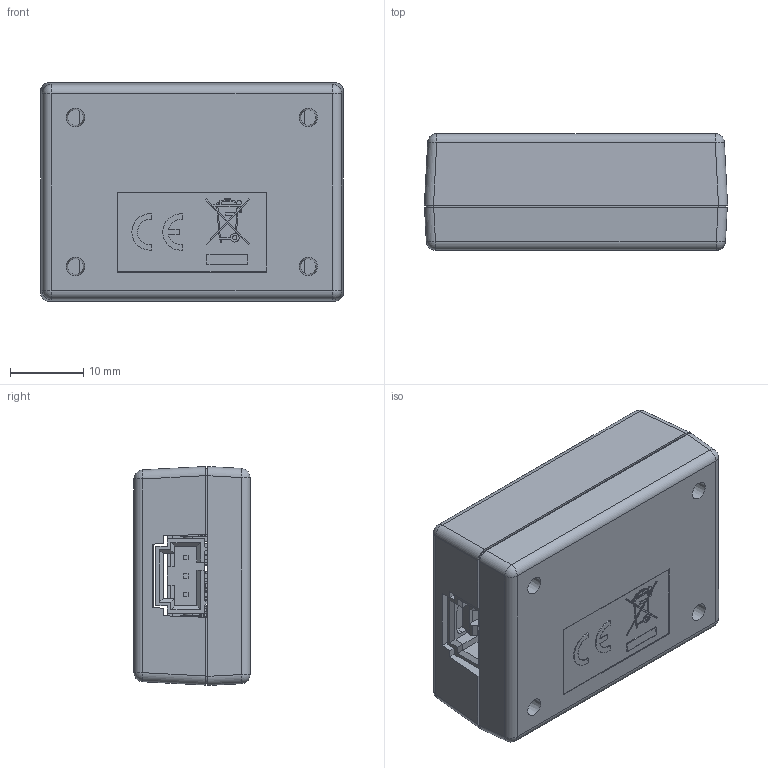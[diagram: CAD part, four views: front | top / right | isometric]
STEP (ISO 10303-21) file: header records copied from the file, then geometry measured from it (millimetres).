
FILE_DESCRIPTION(/* description */ ('Alibre Inc.'),/* implementation_level */ '2;1');
FILE_NAME(/* name */ 'export-C8C71824-2AB4-4BFB-A1C0-4428B83CCBF1',/* time_stamp */ '2024-01-15T13:41:11-07:00',/* author */ (''),/* organization */ (''),/* preprocessor_version */ 'ST-DEVELOPER v17',/* originating_system */ 'Alibre',/* authorisation */ '');
FILE_SCHEMA (('CONFIG_CONTROL_DESIGN'));
Length unit declared in the file: centimetre
Products named in the file (76): Board; Extruded; 5131697216; 5131697024; C12; 5131696832; 5131696640; C11; C10; C9; User_Library-SOT-23-1_1_1; User_Library-SOT-23-1_2_1; User_Library-SOT-23-1_3_1; User_Library-SOT-23-1_4_1; User_Library-SOT-23-1_5_1; User_Library-SOT-23-1; Q1; User_Library-TSSOP-20-1_TSSOP-20_Body_1; User_Library-TSSOP-20-1_TSSOP-20_Pins_1; User_Library-TSSOP-20-1; U3; 5131695488; U2; U1; R16; R15; R14; R10; R8; R6; R5; R4; R3; R2; R1; 5131696448; L2; 5131696256; 5131696064; L1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
Bounding box: 41.36 x 15.83 x 29.85 mm (x, y, z)
Volume: 8828.7 mm3; surface area: 13239.2 mm2
Topology: 77 solids, 77 shells, 1475 faces, 3765 edges, 2454 vertices
Faces by surface type: plane 1164, cylinder 250, bspline 41, cone 12, sphere 8
Full cylindrical faces by diameter (mm): 0.6 x1, 0.965 x8, 3.124 x4, 3.175 x4
Entity records: 44054 total; most frequent: CARTESIAN_POINT 9007, ORIENTED_EDGE 5802, DIRECTION 4515, EDGE_CURVE 2901, VECTOR 2274, LINE 2274, VERTEX_POINT 1904, AXIS2_PLACEMENT_3D 1504
